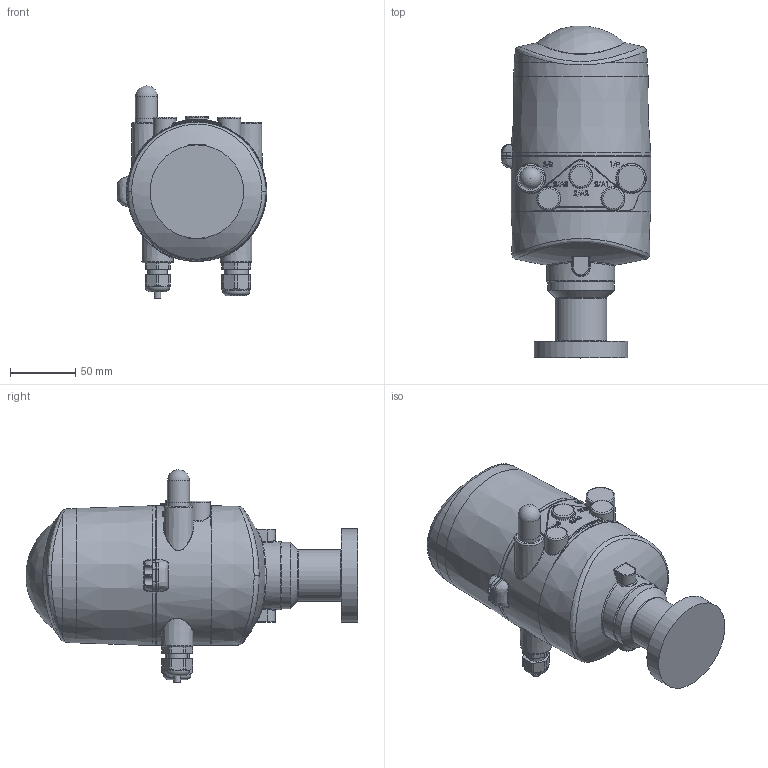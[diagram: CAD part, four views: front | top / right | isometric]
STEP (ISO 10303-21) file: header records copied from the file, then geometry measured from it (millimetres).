
FILE_DESCRIPTION(/* description */ (''),/* implementation_level */ '2;1');
FILE_NAME(/* name */ 'C:\V\Delavan\Designs\Customer Shell Models\Valves\W71\8681- maint. free.stp',/* time_stamp */ '2021-04-25T22:28:48+06:00',/* author */ ('H7M44K'),/* organization */ (''),/* preprocessor_version */ 'ST-DEVELOPER v18.1',/* originating_system */ 'Autodesk Inventor 2020',/* authorisation */ '');
FILE_SCHEMA (('AUTOMOTIVE_DESIGN { 1 0 10303 214 3 1 1 }'));
Products named in the file (1): 8681- maint. free
Bounding box: 114.12 x 253.5 x 162.2 mm (x, y, z)
Volume: 1626359.8 mm3; surface area: 94291.2 mm2
Topology: 1 solids, 1 shells, 493 faces, 1273 edges, 808 vertices
Faces by surface type: plane 188, bspline 164, cylinder 84, cone 32, torus 21, sphere 4
Full cylindrical faces by diameter (mm): 5 x1, 15 x1, 16.98 x1, 17 x1, 17.6 x3, 18.5 x1, 19 x1, 21 x1, 39.37 x1, 50.8 x1, 52 x1, 71.501 x1, 106.7 x1
Entity records: 33423 total; most frequent: CARTESIAN_POINT 22256, ORIENTED_EDGE 2528, DIRECTION 2078, EDGE_CURVE 1264, AXIS2_PLACEMENT_3D 835, VERTEX_POINT 808, EDGE_LOOP 528, FACE_OUTER_BOUND 493
